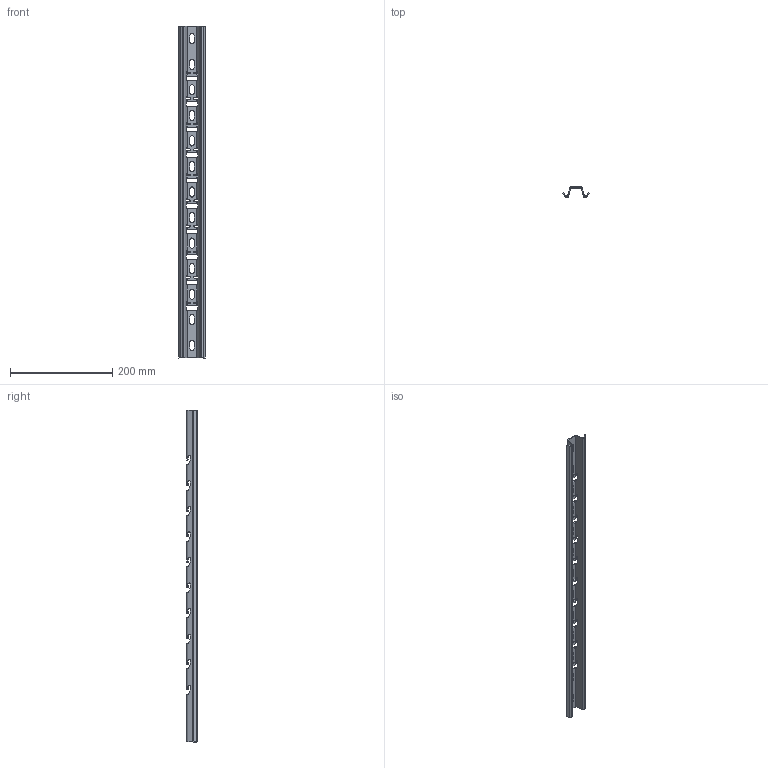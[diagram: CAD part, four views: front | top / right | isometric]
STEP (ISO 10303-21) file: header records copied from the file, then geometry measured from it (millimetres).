
FILE_DESCRIPTION (( 'STEP AP203' ), '1' );
FILE_NAME ('C-SVO 500.step', '2023-07-28T15:19:11', ( '' ), ( '' ), 'SwSTEP 2.0', 'SolidWorks 2022', '' );
FILE_SCHEMA (( 'CONFIG_CONTROL_DESIGN' ));
Length unit declared in the file: millimetre
Products named in the file (1): C-SVO 500
Bounding box: 52 x 20 x 650 mm (x, y, z)
Volume: 96322.4 mm3; surface area: 103463.9 mm2
Topology: 1 solids, 1 shells, 559 faces, 1443 edges, 866 vertices
Faces by surface type: plane 348, cylinder 191, bspline 20
Entity records: 17424 total; most frequent: CARTESIAN_POINT 3689, ORIENTED_EDGE 2886, DIRECTION 2825, EDGE_CURVE 1443, VECTOR 981, LINE 981, AXIS2_PLACEMENT_3D 922, VERTEX_POINT 866
